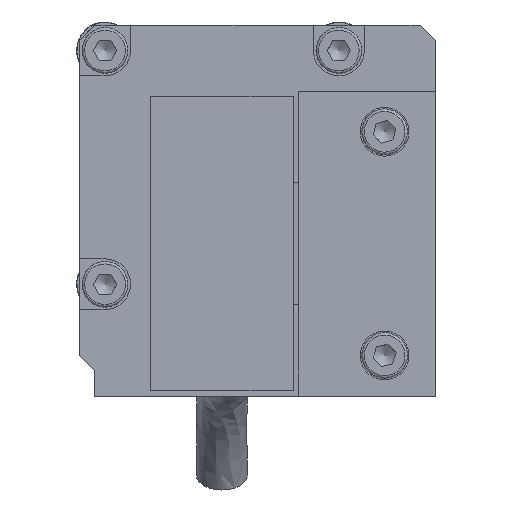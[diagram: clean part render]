
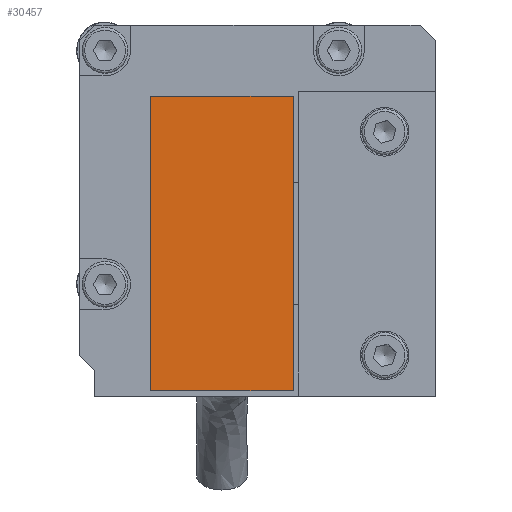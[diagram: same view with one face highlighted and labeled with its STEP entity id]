
A CAD part, left-side view. The second image highlights one B-rep face of the part: STEP entity #30457.
In plain terms, the highlighted planar face has unit normal (-1, 0, 0).
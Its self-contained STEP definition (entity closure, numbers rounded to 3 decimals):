
#3242=PLANE($,#32614);
#4877=FACE_OUTER_BOUND($,#6804,.T.);
#6804=EDGE_LOOP($,(#28437,#28438,#28439,#28440));
#8947=LINE($,#119303,#11161);
#8963=LINE($,#119334,#11177);
#9021=LINE($,#119562,#11235);
#9024=LINE($,#119567,#11238);
#11161=VECTOR($,#38856,29.);
#11177=VECTOR($,#38880,14.);
#11235=VECTOR($,#39086,29.);
#11238=VECTOR($,#39091,14.);
#14948=VERTEX_POINT($,#119299);
#14950=VERTEX_POINT($,#119302);
#14961=VERTEX_POINT($,#119333);
#15013=VERTEX_POINT($,#119561);
#19387=EDGE_CURVE($,#14948,#14950,#8947,.T.);
#19403=EDGE_CURVE($,#14961,#14948,#8963,.T.);
#19492=EDGE_CURVE($,#15013,#14961,#9021,.T.);
#19495=EDGE_CURVE($,#14950,#15013,#9024,.T.);
#28437=ORIENTED_EDGE($,*,*,#19387,.F.);
#28438=ORIENTED_EDGE($,*,*,#19403,.F.);
#28439=ORIENTED_EDGE($,*,*,#19492,.F.);
#28440=ORIENTED_EDGE($,*,*,#19495,.F.);
#30457=ADVANCED_FACE($,(#4877),#3242,.F.);
#32614=AXIS2_PLACEMENT_3D($,#119569,#39093,#39094);
#38856=DIRECTION($,(0.,0.,-1.));
#38880=DIRECTION($,(0.,-1.,0.));
#39086=DIRECTION($,(0.,0.,1.));
#39091=DIRECTION($,(0.,1.,0.));
#39093=DIRECTION('center_axis',(1.,0.,0.));
#39094=DIRECTION('ref_axis',(0.,-1.,0.));
#119299=CARTESIAN_POINT('',(-25.575,-32.938,50.354));
#119302=CARTESIAN_POINT('',(-25.575,-32.938,21.354));
#119303=CARTESIAN_POINT($,(-25.575,-32.938,43.104));
#119333=CARTESIAN_POINT('',(-25.575,-18.938,50.354));
#119334=CARTESIAN_POINT($,(-25.575,-17.097,50.354));
#119561=CARTESIAN_POINT('',(-25.575,-18.938,21.354));
#119562=CARTESIAN_POINT($,(-25.575,-18.938,43.104));
#119567=CARTESIAN_POINT($,(-25.575,-17.097,21.354));
#119569=CARTESIAN_POINT('Origin',(-25.575,-15.256,50.354));
